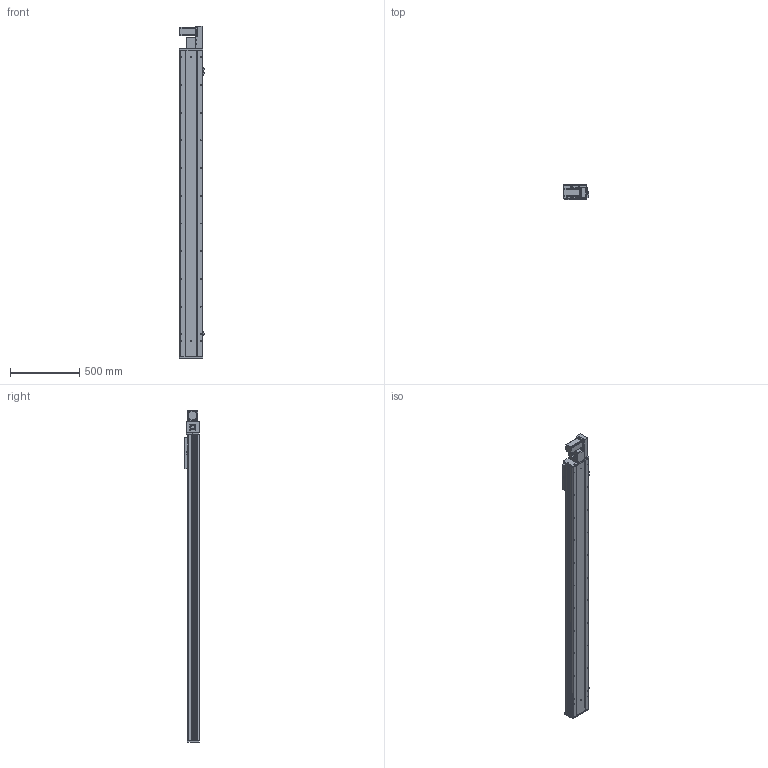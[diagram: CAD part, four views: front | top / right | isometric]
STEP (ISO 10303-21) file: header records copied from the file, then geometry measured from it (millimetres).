
FILE_DESCRIPTION (( 'STEP AP203' ), '1' );
FILE_NAME ('Y170CB-D105-S1900-BR-P400W.STEP', '2020-02-19T09:34:19', ( '微软用户' ), ( '微软中国' ), 'SwSTEP 2.0', 'SolidWorks 2017', '' );
FILE_SCHEMA (( 'CONFIG_CONTROL_DESIGN' ));
Length unit declared in the file: millimetre
Products named in the file (17): 70C--詩湍揤踡え-; Y170CB-陔俋离換覜結え---; 70CB-詩湍--; 0C--雄赽釱俋欶-170; 70CB--耜裔; 70B喘謫眊----; B-源倛裔啣; 17B-耜蚾蟀諉啣----; 0B-萇儂楊擘啣; san松下电机400不带刹车----; Y70俋欶BR----; 70CB-掛极-; --70CB --喘謫眊楊擘啣-; 70C-雄赽釱-奻-; 70CB-耜裔啣-; Y170CB-D105-S1900-BR-P400W; Y100-135俋离換覜ん--
Assembly tree (20 placements, depth 2):
  Y170CB-D105-S1900-BR-P400W
    70B喘謫眊----
    B-源倛裔啣
    17B-耜蚾蟀諉啣----
    0B-萇儂楊擘啣
    san松下电机400不带刹车----
    Y70俋欶BR----
    70CB-掛极-
    --70CB --喘謫眊楊擘啣-
    70CB-耜裔啣-  x2
    70C--詩湍揤踡え-  x2
    70CB--耜裔
    70C-雄赽釱-奻-
    0C--雄赽釱俋欶-170
    70CB-詩湍--
    Y100-135俋离換覜ん--  x3
    Y170CB-陔俋离換覜結え---
Bounding box: 183.5 x 107 x 2397 mm (x, y, z)
Volume: 10075346.4 mm3; surface area: 3624184 mm2
Topology: 20 solids, 20 shells, 1033 faces, 2777 edges, 1842 vertices
Faces by surface type: cylinder 547, plane 462, cone 24
Entity records: 32919 total; most frequent: CARTESIAN_POINT 6081, DIRECTION 5356, ORIENTED_EDGE 5036, EDGE_CURVE 2518, AXIS2_PLACEMENT_3D 1965, VERTEX_POINT 1672, LINE 1426, VECTOR 1426
